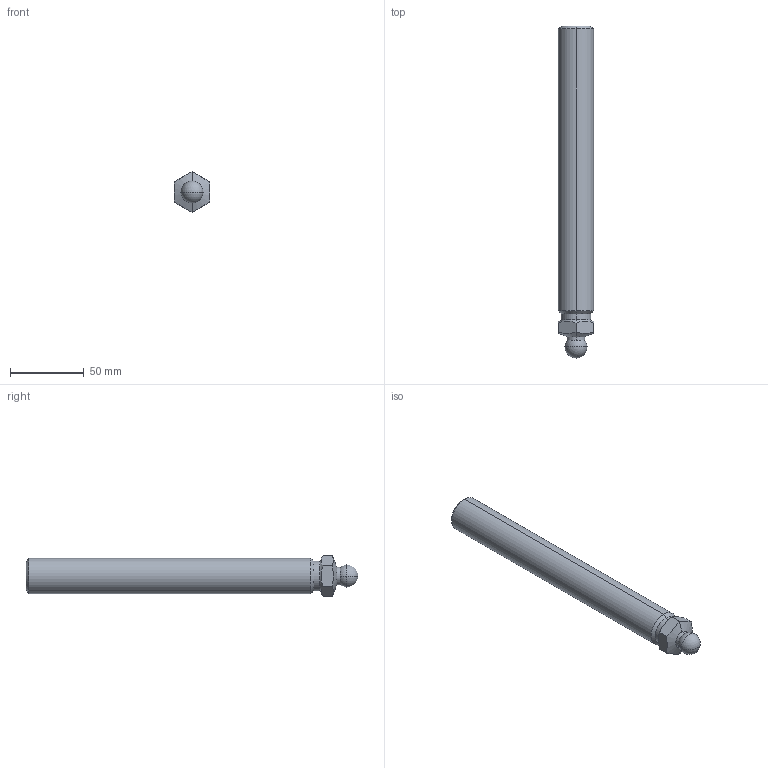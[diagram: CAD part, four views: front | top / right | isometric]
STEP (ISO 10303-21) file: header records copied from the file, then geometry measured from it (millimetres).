
FILE_DESCRIPTION(('STEP AP214'),'1');
FILE_NAME('fath_098dm24200m.stp','2017-09-25T11:48:18',('TraceParts'),('TraceParts S.A.'),'Spatial InterOp 3D',' ',' ');
FILE_SCHEMA(('automotive_design'));
Length unit declared in the file: millimetre
Products named in the file (1): fath_098dm24200m
Bounding box: 24 x 225 x 27.71 mm (x, y, z)
Volume: 96098.6 mm3; surface area: 17306.8 mm2
Topology: 1 solids, 1 shells, 34 faces, 84 edges, 49 vertices
Faces by surface type: cone 14, plane 8, cylinder 6, sphere 4, torus 2
Entity records: 1351 total; most frequent: CARTESIAN_POINT 278, DIRECTION 168, ORIENTED_EDGE 160, EDGE_CURVE 80, AXIS2_PLACEMENT_3D 71, VERTEX_POINT 49, CIRCLE 36, STYLED_ITEM 35
